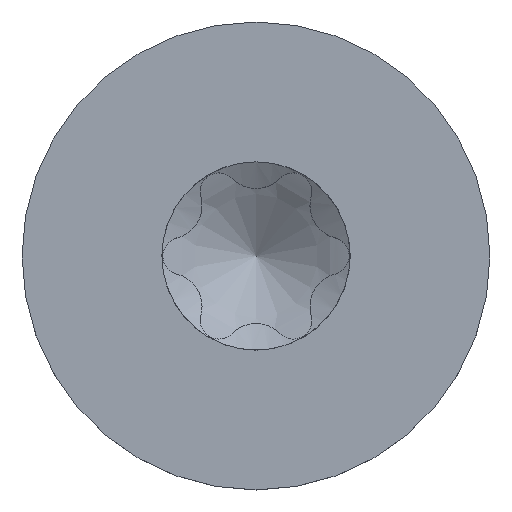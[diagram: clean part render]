
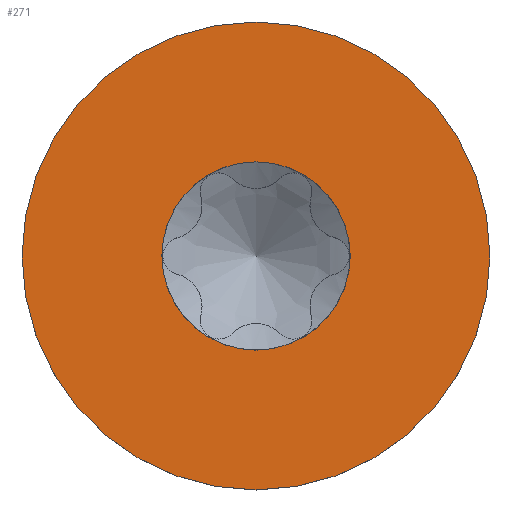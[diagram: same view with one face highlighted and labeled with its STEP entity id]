
A CAD part, top view. The second image highlights one B-rep face of the part: STEP entity #271.
In plain terms, the highlighted planar face has unit normal (0, 0, 1).
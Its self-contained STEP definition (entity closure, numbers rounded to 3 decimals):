
#244=PLANE('',#1414);
#251=FACE_BOUND('',#439,.T.);
#252=FACE_BOUND('',#440,.T.);
#271=ADVANCED_FACE('',(#251,#252),#244,.F.);
#439=EDGE_LOOP('',(#705));
#440=EDGE_LOOP('',(#706));
#705=ORIENTED_EDGE('',*,*,#1235,.F.);
#706=ORIENTED_EDGE('',*,*,#1236,.F.);
#1102=VERTEX_POINT('',#3297);
#1103=VERTEX_POINT('',#3299);
#1235=EDGE_CURVE('',#1102,#1102,#1394,.T.);
#1236=EDGE_CURVE('',#1103,#1103,#1395,.T.);
#1394=CIRCLE('',#1412,0.885);
#1395=CIRCLE('',#1413,2.2);
#1412=AXIS2_PLACEMENT_3D('',#3296,#1463,#1464);
#1413=AXIS2_PLACEMENT_3D('',#3298,#1465,#1466);
#1414=AXIS2_PLACEMENT_3D('',#3300,#1467,#1468);
#1463=DIRECTION('',(0.,0.,1.));
#1464=DIRECTION('',(-1.,0.,0.));
#1465=DIRECTION('',(0.,0.,-1.));
#1466=DIRECTION('',(-1.,0.,0.));
#1467=DIRECTION('',(0.,0.,-1.));
#1468=DIRECTION('',(-1.,0.,0.));
#3296=CARTESIAN_POINT('',(0.,0.,1.69));
#3297=CARTESIAN_POINT('',(-0.885,0.,1.69));
#3298=CARTESIAN_POINT('',(0.,0.,1.69));
#3299=CARTESIAN_POINT('',(-2.2,0.,1.69));
#3300=CARTESIAN_POINT('',(0.,0.,1.69));
